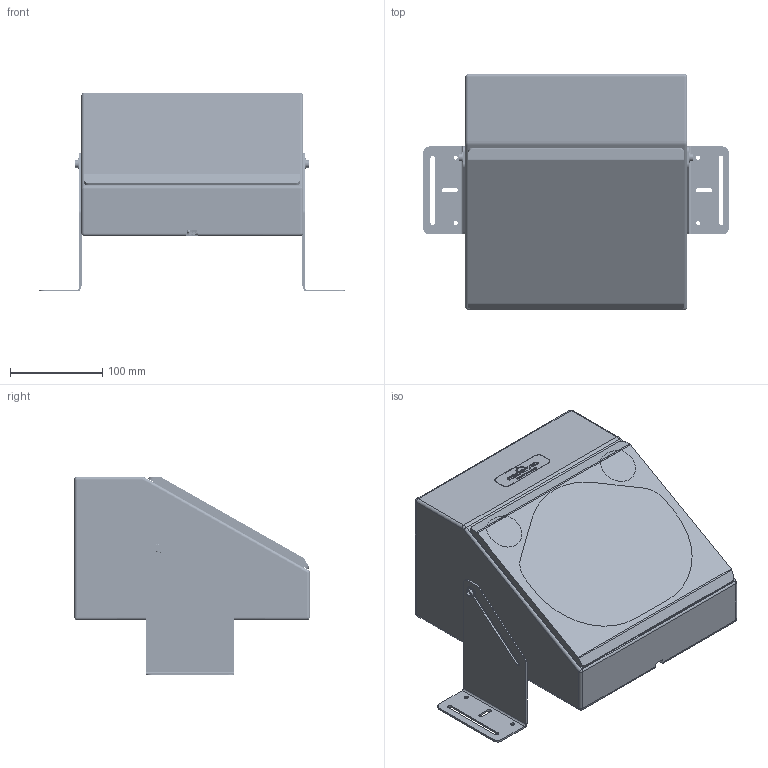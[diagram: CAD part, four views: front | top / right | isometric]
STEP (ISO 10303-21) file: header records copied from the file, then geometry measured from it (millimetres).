
FILE_DESCRIPTION(/* description */ (''),/* implementation_level */ '2;1');
FILE_NAME(/* name */ 'THE6PassiveWedge30 v9 FullGrilleCloth.step',/* time_stamp */ '2023-04-19T14:45:24+02:00',/* author */ (''),/* organization */ (''),/* preprocessor_version */ 'ST-DEVELOPER v19.2',/* originating_system */ 'Autodesk Translation Framework v12.4.0.73',/* authorisation */ '');
FILE_SCHEMA (('AUTOMOTIVE_DESIGN { 1 0 10303 214 3 1 1 }'));
Products named in the file (3): THE 6 Passive Wedge 30; COMBINE_Speaker; COMBINE_GrilleCloth
Assembly tree (2 placements, depth 2):
  THE 6 Passive Wedge 30
    COMBINE_Speaker
    COMBINE_GrilleCloth
Bounding box: 330.6 x 255 x 215.26 mm (x, y, z)
Volume: 2816411.8 mm3; surface area: 839291.5 mm2
Topology: 12 solids, 40 shells, 4171 faces, 11462 edges, 7523 vertices
Faces by surface type: plane 2450, cylinder 753, bspline 526, cone 310, torus 111, sphere 21
Full cylindrical faces by diameter (mm): 1 x14, 1.5 x2, 2.5 x76, 3.2 x2, 3.5 x5, 3.6 x26, 4 x20, 4.2 x4, 4.5 x6, 4.8 x2, 5.2 x6, 5.4 x6, 5.5 x10, 6 x1, 6.5 x25, 7.112 x4, 7.3 x4, 7.9 x4, 8 x6, 10 x5, 10.3 x4, 12 x4, 12.5 x4, 21.3 x1, 25.38 x1, 25.44 x2, 25.45 x1, 25.55 x1, 26.18 x1, 26.45 x1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
Entity records: 173583 total; most frequent: CARTESIAN_POINT 68229, ORIENTED_EDGE 22844, DIRECTION 20483, EDGE_CURVE 11422, VERTEX_POINT 7523, LINE 7061, VECTOR 7061, AXIS2_PLACEMENT_3D 6711
